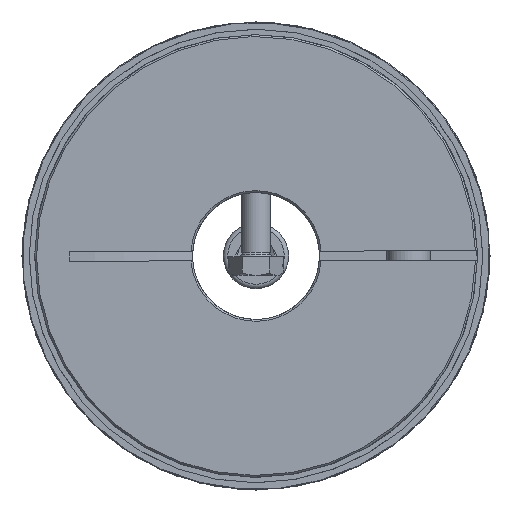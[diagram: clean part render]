
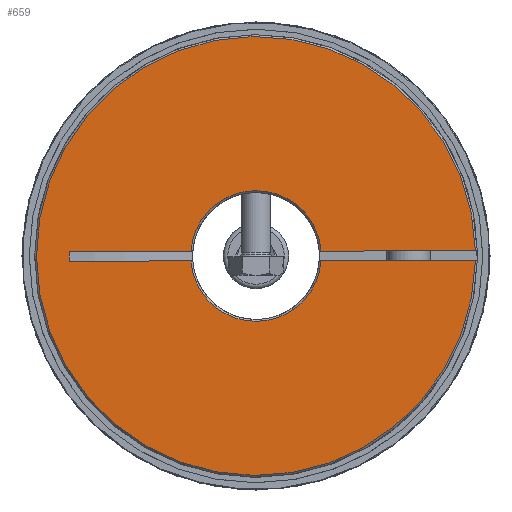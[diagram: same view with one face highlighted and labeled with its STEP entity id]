
A CAD part, left-side view. The second image highlights one B-rep face of the part: STEP entity #659.
In plain terms, the highlighted planar face has unit normal (-1, 0, 0).
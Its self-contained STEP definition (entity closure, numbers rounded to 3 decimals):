
#659 = ADVANCED_FACE( 'NONE', ( #1388 ), #1389, .F. );
#1388 = FACE_OUTER_BOUND( '', #2048, .T. );
#1389 = PLANE( '', #2049 );
#2048 = EDGE_LOOP( '', ( #3238, #3239, #3240, #3241, #3242, #3243, #3244, #3245 ) );
#2049 = AXIS2_PLACEMENT_3D( '', #3246, #3247, #3248 );
#3238 = ORIENTED_EDGE( '', *, *, #3807, .T. );
#3239 = ORIENTED_EDGE( '', *, *, #3800, .T. );
#3240 = ORIENTED_EDGE( '', *, *, #3809, .T. );
#3241 = ORIENTED_EDGE( '', *, *, #3810, .T. );
#3242 = ORIENTED_EDGE( '', *, *, #3792, .F. );
#3243 = ORIENTED_EDGE( '', *, *, #3790, .T. );
#3244 = ORIENTED_EDGE( '', *, *, #3796, .F. );
#3245 = ORIENTED_EDGE( '', *, *, #3799, .T. );
#3246 = CARTESIAN_POINT( '', ( 0., 17.5, 0. ) );
#3247 = DIRECTION( '', ( 1., 0., 0. ) );
#3248 = DIRECTION( '', ( 0., 1., 0. ) );
#3790 = EDGE_CURVE( 'NONE', #4360, #4358, #4361, .T. );
#3792 = EDGE_CURVE( 'NONE', #4360, #4363, #4364, .F. );
#3796 = EDGE_CURVE( 'NONE', #4369, #4358, #4370, .F. );
#3799 = EDGE_CURVE( 'NONE', #4369, #4372, #4374, .T. );
#3800 = EDGE_CURVE( 'NONE', #4375, #4376, #4377, .T. );
#3807 = EDGE_CURVE( 'NONE', #4372, #4375, #4385, .T. );
#3809 = EDGE_CURVE( 'NONE', #4376, #4388, #4389, .T. );
#3810 = EDGE_CURVE( 'NONE', #4388, #4363, #4390, .F. );
#4358 = VERTEX_POINT( 'NONE', #5515 );
#4360 = VERTEX_POINT( 'NONE', #5520 );
#4361 = CIRCLE( '', #5521, 18. );
#4363 = VERTEX_POINT( 'NONE', #5526 );
#4364 = LINE( '', #5527, #5528 );
#4369 = VERTEX_POINT( 'NONE', #5537 );
#4370 = LINE( '', #5538, #5539 );
#4372 = VERTEX_POINT( 'NONE', #5541 );
#4374 = LINE( '', #5543, #5544 );
#4375 = VERTEX_POINT( 'NONE', #5545 );
#4376 = VERTEX_POINT( 'NONE', #5546 );
#4377 = CIRCLE( '', #5547, 18. );
#4385 = LINE( '', #5562, #5563 );
#4388 = VERTEX_POINT( 'NONE', #5566 );
#4389 = LINE( '', #5567, #5568 );
#4390 = CIRCLE( '', #5569, 60.5 );
#5515 = CARTESIAN_POINT( '', ( 0., 17.953, -1.3 ) );
#5520 = CARTESIAN_POINT( '', ( 0., -17.953, -1.3 ) );
#5521 = AXIS2_PLACEMENT_3D( '', #6246, #6247, #6248 );
#5526 = CARTESIAN_POINT( '', ( 0., -60.486, -1.3 ) );
#5527 = CARTESIAN_POINT( '', ( 0., -13., -1.3 ) );
#5528 = VECTOR( '', #6249, 1000. );
#5537 = CARTESIAN_POINT( '', ( 0., 51.446, -1.3 ) );
#5538 = CARTESIAN_POINT( '', ( 0., -13., -1.3 ) );
#5539 = VECTOR( '', #6254, 1000. );
#5541 = CARTESIAN_POINT( '', ( 0., 51.446, 1.3 ) );
#5543 = CARTESIAN_POINT( '', ( 0., 51.446, -1.3 ) );
#5544 = VECTOR( '', #6261, 1000. );
#5545 = CARTESIAN_POINT( '', ( 0., 17.953, 1.3 ) );
#5546 = CARTESIAN_POINT( '', ( 0., -17.953, 1.3 ) );
#5547 = AXIS2_PLACEMENT_3D( '', #6262, #6263, #6264 );
#5562 = CARTESIAN_POINT( '', ( 0., 17.5, 1.3 ) );
#5563 = VECTOR( '', #6275, 1000. );
#5566 = CARTESIAN_POINT( '', ( 0., -60.486, 1.3 ) );
#5567 = CARTESIAN_POINT( '', ( 0., 17.5, 1.3 ) );
#5568 = VECTOR( '', #6279, 1000. );
#5569 = AXIS2_PLACEMENT_3D( '', #6280, #6281, #6282 );
#6246 = CARTESIAN_POINT( '', ( 0., 0., 0. ) );
#6247 = DIRECTION( '', ( 1., 0., 0. ) );
#6248 = DIRECTION( '', ( 0., 0., -1. ) );
#6249 = DIRECTION( '', ( 0., 1., 0. ) );
#6254 = DIRECTION( '', ( 0., 1., 0. ) );
#6261 = DIRECTION( '', ( 0., 0., 1. ) );
#6262 = CARTESIAN_POINT( '', ( 0., 0., 0. ) );
#6263 = DIRECTION( '', ( 1., 0., 0. ) );
#6264 = DIRECTION( '', ( 0., 0., -1. ) );
#6275 = DIRECTION( '', ( 0., -1., 0. ) );
#6279 = DIRECTION( '', ( 0., -1., 0. ) );
#6280 = CARTESIAN_POINT( '', ( 0., 0., 0. ) );
#6281 = DIRECTION( '', ( 1., 0., 0. ) );
#6282 = DIRECTION( '', ( 0., 0., -1. ) );
